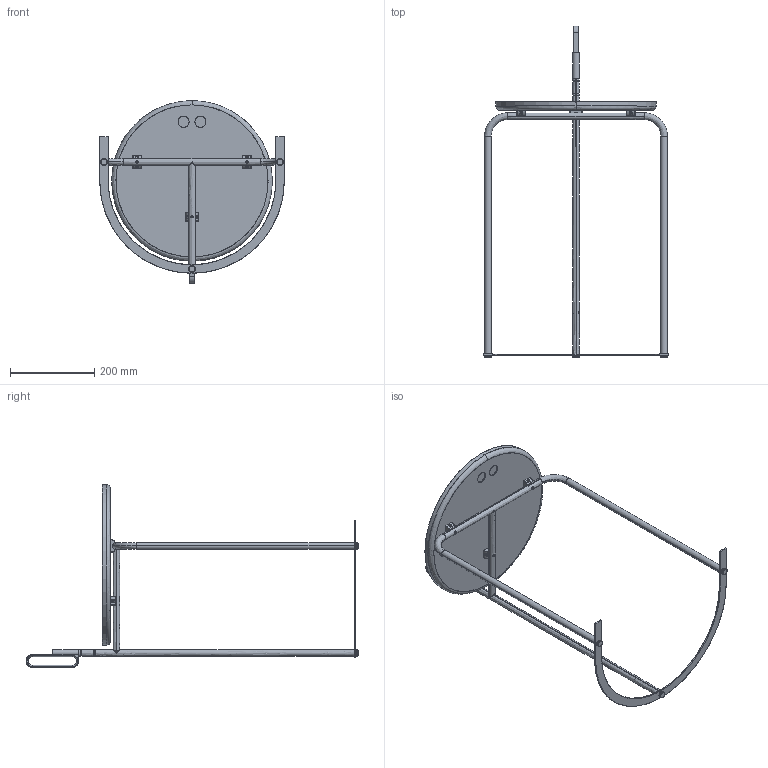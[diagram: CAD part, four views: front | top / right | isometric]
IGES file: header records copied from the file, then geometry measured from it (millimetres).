
Start section: SolidWorks IGES file using analytic representation for surfaces
Global section: file name: C:\Users\André Silva\Desktop\DLE\790 Handle Side Table_ve_2018-08-01\790 Handle Side Table.IGS; native system: SolidWorks 2016; preprocessor: SolidWorks 2016; author: André Silva; date: 180828.102838; units: millimetre
Bounding box: 437 x 786 x 432.37 mm (x, y, z)
Surface area: 528837.1 mm2 (no closed solid volume)
Topology: 0 solids, 0 shells, 1057 faces, 8990 edges, 8990 vertices
Faces by surface type: revolution 561, bspline 496
